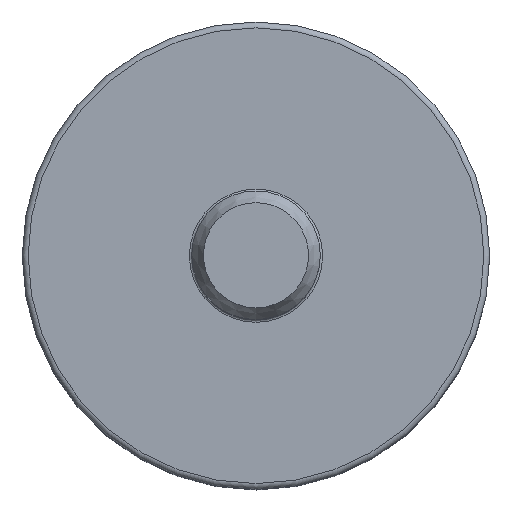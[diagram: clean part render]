
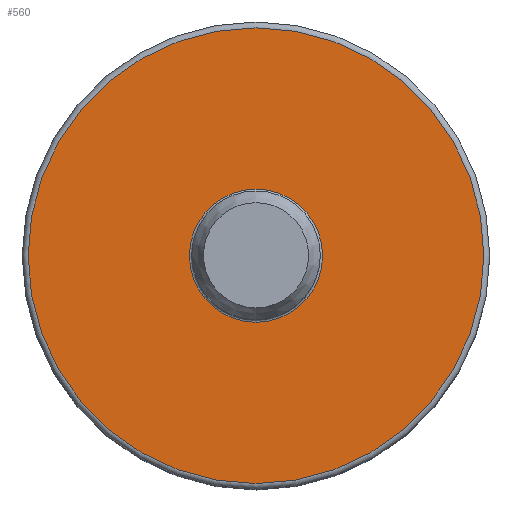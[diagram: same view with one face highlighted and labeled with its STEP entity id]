
A CAD part, top view. The second image highlights one B-rep face of the part: STEP entity #560.
In plain terms, the highlighted planar face has unit normal (0, 0, 1).
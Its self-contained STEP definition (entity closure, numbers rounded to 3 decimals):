
#84=PLANE('',#632);
#106=FACE_BOUND('',#215,.T.);
#156=FACE_OUTER_BOUND('',#214,.T.);
#214=EDGE_LOOP('',(#478));
#215=EDGE_LOOP('',(#479));
#254=CIRCLE('',#631,39.);
#255=CIRCLE('',#633,11.4);
#302=VERTEX_POINT('',#947);
#303=VERTEX_POINT('',#950);
#362=EDGE_CURVE('',#302,#302,#254,.T.);
#363=EDGE_CURVE('',#303,#303,#255,.T.);
#478=ORIENTED_EDGE('',*,*,#362,.T.);
#479=ORIENTED_EDGE('',*,*,#363,.F.);
#560=ADVANCED_FACE('',(#156,#106),#84,.T.);
#631=AXIS2_PLACEMENT_3D('',#948,#795,#796);
#632=AXIS2_PLACEMENT_3D('',#949,#797,#798);
#633=AXIS2_PLACEMENT_3D('',#951,#799,#800);
#795=DIRECTION('center_axis',(0.,0.,1.));
#796=DIRECTION('ref_axis',(0.,-1.,0.));
#797=DIRECTION('center_axis',(0.,0.,1.));
#798=DIRECTION('ref_axis',(1.,0.,0.));
#799=DIRECTION('center_axis',(0.,0.,1.));
#800=DIRECTION('ref_axis',(0.,-1.,0.));
#947=CARTESIAN_POINT('',(0.,-39.,0.));
#948=CARTESIAN_POINT('Origin',(0.,0.,0.));
#949=CARTESIAN_POINT('Origin',(0.,-25.2,0.));
#950=CARTESIAN_POINT('',(0.,-11.4,0.));
#951=CARTESIAN_POINT('Origin',(0.,0.,0.));
